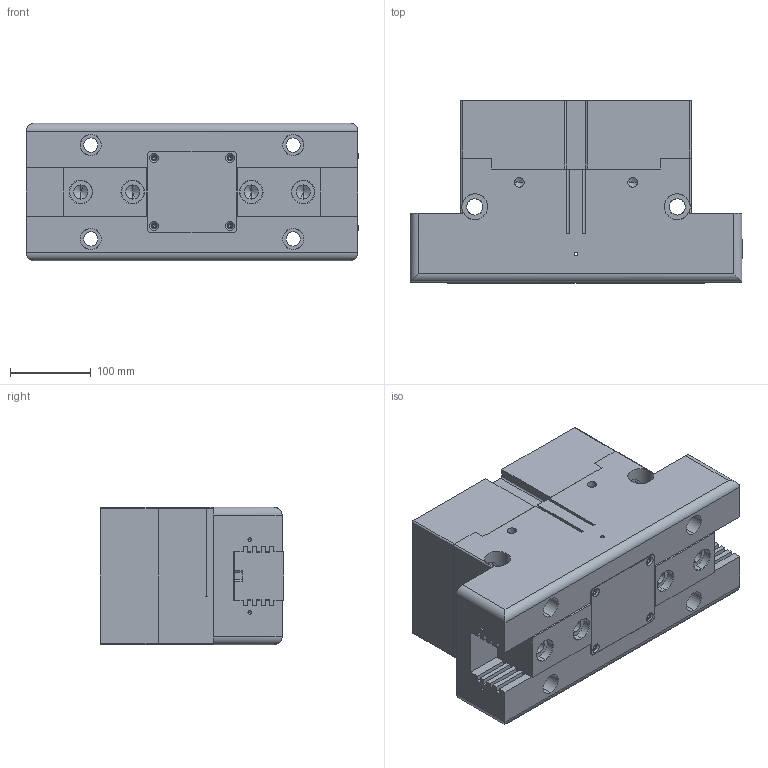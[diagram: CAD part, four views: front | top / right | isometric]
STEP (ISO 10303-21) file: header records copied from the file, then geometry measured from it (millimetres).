
FILE_DESCRIPTION (( 'STEP AP214' ), '1' );
FILE_NAME ('TWN-380A-1-IS.STEP', '2019-12-10T08:45:46', ( '' ), ( '' ), 'SwSTEP 2.0', 'SolidWorks 2016', '' );
FILE_SCHEMA (( 'AUTOMOTIVE_DESIGN' ));
Length unit declared in the file: millimetre
Products named in the file (5): TWN-380A-1-IS-04; TWN-380A-1-IS-02; TWN-380A-1-IS-01; TWN-380A-1-IS-03; TWN-380A-1-IS
Assembly tree (5 placements, depth 2):
  TWN-380A-1-IS
    TWN-380A-1-IS-01
    TWN-380A-1-IS-03
    TWN-380A-1-IS-02  x2
    TWN-380A-1-IS-04
Bounding box: 410 x 226.5 x 170 mm (x, y, z)
Volume: 11611077.8 mm3; surface area: 806488.2 mm2
Topology: 5 solids, 8 shells, 474 faces, 1286 edges, 806 vertices
Faces by surface type: plane 206, cylinder 188, cone 80
Entity records: 14323 total; most frequent: CARTESIAN_POINT 3014, DIRECTION 2187, ORIENTED_EDGE 2066, EDGE_CURVE 1033, AXIS2_PLACEMENT_3D 775, VERTEX_POINT 682, LINE 637, VECTOR 637
